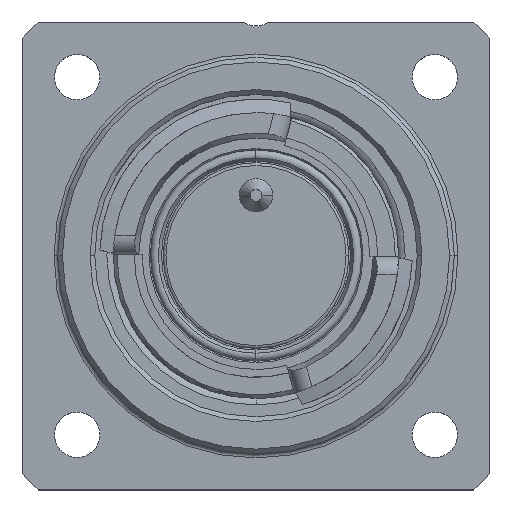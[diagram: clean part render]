
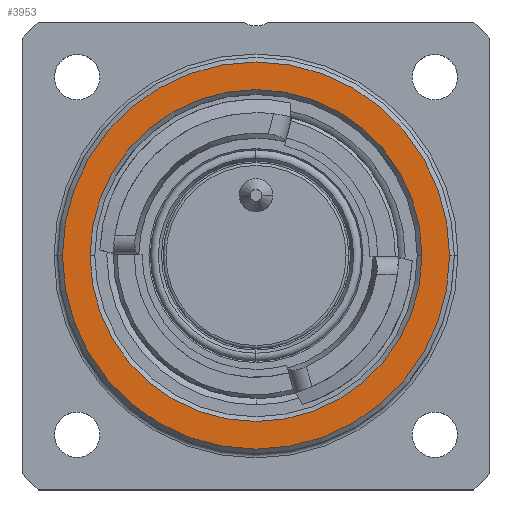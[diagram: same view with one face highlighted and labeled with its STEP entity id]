
A CAD part, top view. The second image highlights one B-rep face of the part: STEP entity #3953.
In plain terms, the highlighted planar face has unit normal (0, 0, 1).
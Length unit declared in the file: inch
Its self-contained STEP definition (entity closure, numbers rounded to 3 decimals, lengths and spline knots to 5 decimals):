
#609 = CARTESIAN_POINT ( 'NONE',  ( 0., 0., -0.19291 ) ) ;
#665 = EDGE_CURVE ( 'NONE', #8598, #10522, #2614, .T. ) ;
#819 = EDGE_LOOP ( 'NONE', ( #11341, #984 ) ) ;
#984 = ORIENTED_EDGE ( 'NONE', *, *, #8117, .T. ) ;
#1097 = DIRECTION ( 'NONE',  ( 0., 0., -1. ) ) ;
#1895 = CARTESIAN_POINT ( 'NONE',  ( 0.35252, 0., -0.19291 ) ) ;
#2614 = CIRCLE ( 'NONE', #4144, 0.41126 ) ;
#2900 = CIRCLE ( 'NONE', #6678, 0.35252 ) ;
#3367 = DIRECTION ( 'NONE',  ( 0., 0., -1. ) ) ;
#3439 = DIRECTION ( 'NONE',  ( -1., 0., 0. ) ) ;
#3489 = EDGE_CURVE ( 'NONE', #10522, #8598, #10000, .T. ) ;
#3655 = AXIS2_PLACEMENT_3D ( 'NONE', #11498, #4463, #3439 ) ;
#3709 = DIRECTION ( 'NONE',  ( -1., 0., 0. ) ) ;
#3953 = ADVANCED_FACE ( 'NONE', ( #11428, #4090 ), #8595, .F. ) ;
#4090 = FACE_OUTER_BOUND ( 'NONE', #11056, .T. ) ;
#4144 = AXIS2_PLACEMENT_3D ( 'NONE', #609, #5116, #5934 ) ;
#4435 = ORIENTED_EDGE ( 'NONE', *, *, #3489, .T. ) ;
#4463 = DIRECTION ( 'NONE',  ( 0., 0., -1. ) ) ;
#4718 = CARTESIAN_POINT ( 'NONE',  ( 0., 0., -0.19291 ) ) ;
#5116 = DIRECTION ( 'NONE',  ( 0., 0., 1. ) ) ;
#5617 = VERTEX_POINT ( 'NONE', #1895 ) ;
#5791 = CARTESIAN_POINT ( 'NONE',  ( 0.41126, 0., -0.19291 ) ) ;
#5888 = ORIENTED_EDGE ( 'NONE', *, *, #665, .T. ) ;
#5934 = DIRECTION ( 'NONE',  ( -1., 0., 0. ) ) ;
#6179 = CARTESIAN_POINT ( 'NONE',  ( -0.35252, 0., -0.19291 ) ) ;
#6249 = DIRECTION ( 'NONE',  ( 0., 0., 1. ) ) ;
#6302 = CIRCLE ( 'NONE', #3655, 0.35252 ) ;
#6557 = VERTEX_POINT ( 'NONE', #6179 ) ;
#6678 = AXIS2_PLACEMENT_3D ( 'NONE', #4718, #1097, #3709 ) ;
#7033 = AXIS2_PLACEMENT_3D ( 'NONE', #7664, #3367, #10477 ) ;
#7334 = EDGE_CURVE ( 'NONE', #5617, #6557, #6302, .T. ) ;
#7664 = CARTESIAN_POINT ( 'NONE',  ( 0., 0.42126, -0.19291 ) ) ;
#8117 = EDGE_CURVE ( 'NONE', #6557, #5617, #2900, .T. ) ;
#8595 = PLANE ( 'NONE',  #7033 ) ;
#8598 = VERTEX_POINT ( 'NONE', #5791 ) ;
#9813 = DIRECTION ( 'NONE',  ( -1., 0., 0. ) ) ;
#10000 = CIRCLE ( 'NONE', #10575, 0.41126 ) ;
#10477 = DIRECTION ( 'NONE',  ( -1., 0., 0. ) ) ;
#10522 = VERTEX_POINT ( 'NONE', #11126 ) ;
#10575 = AXIS2_PLACEMENT_3D ( 'NONE', #10694, #6249, #9813 ) ;
#10694 = CARTESIAN_POINT ( 'NONE',  ( 0., 0., -0.19291 ) ) ;
#11056 = EDGE_LOOP ( 'NONE', ( #4435, #5888 ) ) ;
#11126 = CARTESIAN_POINT ( 'NONE',  ( -0.41126, 0., -0.19291 ) ) ;
#11341 = ORIENTED_EDGE ( 'NONE', *, *, #7334, .T. ) ;
#11428 = FACE_BOUND ( 'NONE', #819, .T. ) ;
#11498 = CARTESIAN_POINT ( 'NONE',  ( 0., 0., -0.19291 ) ) ;
